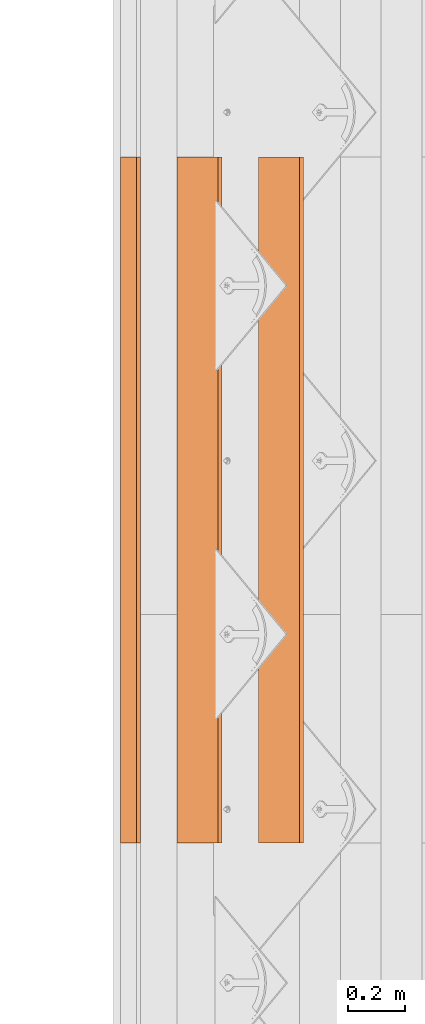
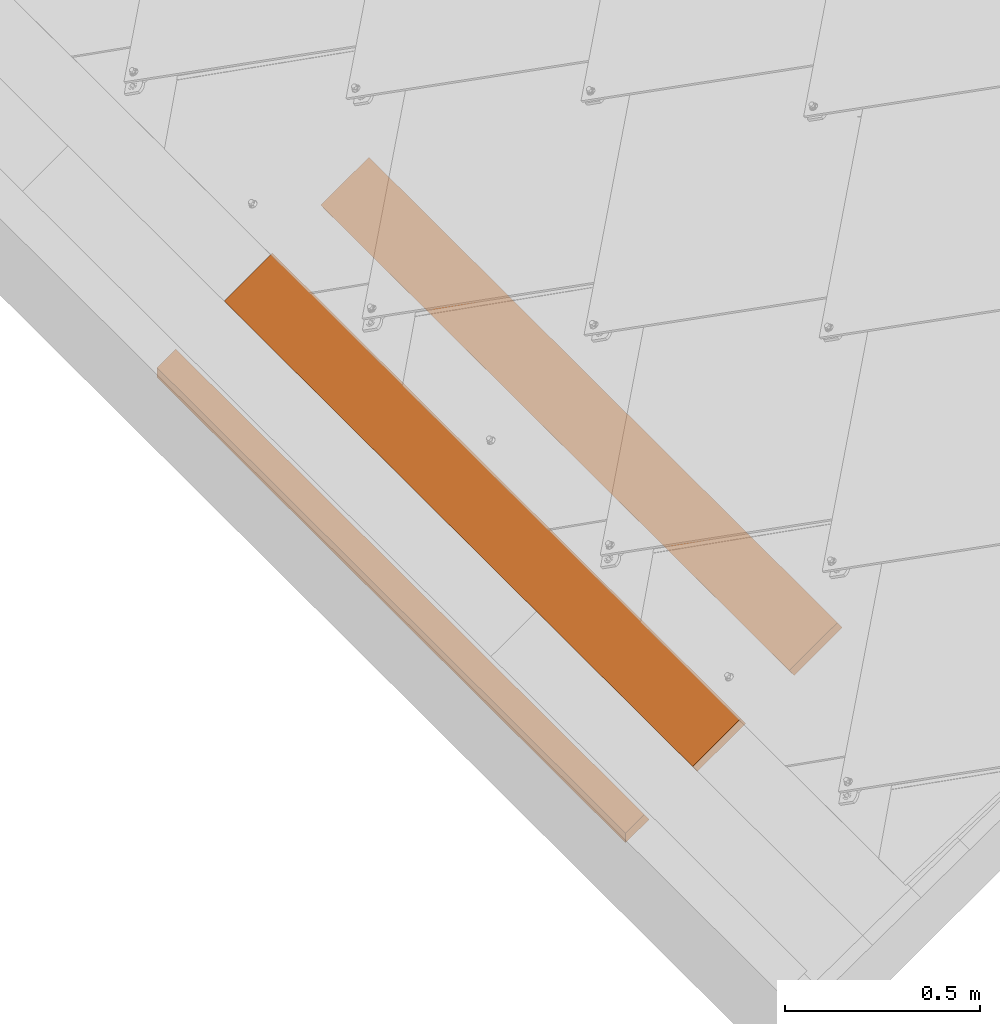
# One storey, part 44 of 133: 3 proxies, 1 element without a shape of its own.
"""IFC2X3 building model written with IfcOpenShell, lengths in millimetres."""

from ifc_helpers import new_model, entity, si_unit, converted_unit, derived_unit, direction, frame, frame_2d, origin, place, context, subcontext, project, spatial, polyline, rectangle, outline, extrude, source, transform, mapped, material, type_object, type_shapes, element, aggregate, save


model = new_model("IFC2X3")

# Units and contexts
model_context = context("Model", 3, precision=0.01, world=origin(), true_north=direction((6.12303176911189e-17, 1.0)))
body_context = subcontext(model_context, "Body", "Model", "MODEL_VIEW")
ifc_project = project(units=[si_unit("LENGTHUNIT", "METRE", prefix="MILLI"), si_unit("AREAUNIT", "SQUARE_METRE"), si_unit("VOLUMEUNIT", "CUBIC_METRE"), converted_unit("PLANEANGLEUNIT", "DEGREE", entity("IfcRatioMeasure", 0.0174532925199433), si_unit("PLANEANGLEUNIT", "RADIAN"), dimensions=[0, 0, 0, 0, 0, 0, 0]), si_unit("MASSUNIT", "GRAM", prefix="KILO"), derived_unit("MASSDENSITYUNIT", [(si_unit("MASSUNIT", "GRAM", prefix="KILO"), 1), (si_unit("LENGTHUNIT", "METRE"), -3)]), si_unit("TIMEUNIT", "SECOND"), si_unit("FREQUENCYUNIT", "HERTZ"), si_unit("THERMODYNAMICTEMPERATUREUNIT", "DEGREE_CELSIUS"), derived_unit("THERMALTRANSMITTANCEUNIT", [(si_unit("MASSUNIT", "GRAM", prefix="KILO"), 1), (si_unit("THERMODYNAMICTEMPERATUREUNIT", "KELVIN"), -1), (si_unit("TIMEUNIT", "SECOND"), -3)]), derived_unit("VOLUMETRICFLOWRATEUNIT", [(si_unit("LENGTHUNIT", "METRE"), 3), (si_unit("TIMEUNIT", "SECOND"), -1)]), si_unit("ELECTRICCURRENTUNIT", "AMPERE"), si_unit("ELECTRICVOLTAGEUNIT", "VOLT"), si_unit("POWERUNIT", "WATT"), si_unit("FORCEUNIT", "NEWTON", prefix="KILO"), si_unit("ILLUMINANCEUNIT", "LUX"), si_unit("LUMINOUSFLUXUNIT", "LUMEN"), si_unit("LUMINOUSINTENSITYUNIT", "CANDELA"), derived_unit("USERDEFINED", [(si_unit("MASSUNIT", "GRAM", prefix="KILO"), -1), (si_unit("LENGTHUNIT", "METRE"), -2), (si_unit("TIMEUNIT", "SECOND"), 3), (si_unit("LUMINOUSFLUXUNIT", "LUMEN"), 1)]), derived_unit("LINEARVELOCITYUNIT", [(si_unit("LENGTHUNIT", "METRE"), 1), (si_unit("TIMEUNIT", "SECOND"), -1)]), si_unit("PRESSUREUNIT", "PASCAL"), derived_unit("USERDEFINED", [(si_unit("LENGTHUNIT", "METRE"), -2), (si_unit("MASSUNIT", "GRAM", prefix="KILO"), 1), (si_unit("TIMEUNIT", "SECOND"), -2)])], contexts=[model_context])

# Site, building, storey
site_placement = place(None, origin())
site = spatial("IfcSite", under=ifc_project, at=site_placement, Name="Default", CompositionType="ELEMENT")
building_placement = place(site_placement, origin())
building = spatial("IfcBuilding", under=site, at=building_placement, CompositionType="ELEMENT")
storey_placement = place(building_placement, origin())
storey = spatial("IfcBuildingStorey", under=building, at=storey_placement, Name="Level 1", CompositionType="ELEMENT", Elevation=0.0)

# Assembly, proxies
assembly_placement = place(storey_placement, origin())
assembly = element("IfcElementAssembly", 1, at=assembly_placement, inside=storey, Name="Structural Framing Assembly:Roof Construction Assembly", ObjectType="Structural Framing Assembly:Roof Construction Assembly", AssemblyPlace="NOTDEFINED", PredefinedType="USERDEFINED")
ifc_material = material(Name="Wood - Generic - Wood For Showcase")
building_element_proxy_type_1 = type_object("IfcBuildingElementProxyType", Name="Structural Framing 15", PredefinedType="NOTDEFINED", material=ifc_material)
shared_shape_1 = source(origin(), body_context, "Body", "SweptSolid", [
    extrude(rectangle(XDim=24.9999999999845, YDim=174.344679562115, at=frame_2d((-1.77635683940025e-13, -4.54747350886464e-13), x_axis=(0.0, 1.0))), frame((1128.20180147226, 1595.55080214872, 2760.23940055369), z_axis=(0.0, 1.0, 0.0), x_axis=(-0.819152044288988, 0.0, -0.573576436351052)), (0.0, 0.0, 1.0), 2400.0),
])
type_shapes(building_element_proxy_type_1, [shared_shape_1])
proxy_1_placement = place(assembly_placement, frame((-3284.74041550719, -3340.0, -2300.0)))
proxy_1 = element("IfcBuildingElementProxy", 2, at=proxy_1_placement, type_object=building_element_proxy_type_1, material=ifc_material, Name="Structural Framing 131:Structural Framing 15", ObjectType="Structural Framing 131:Structural Framing 15", context=body_context, shape_type="MappedRepresentation", body=[
    mapped(shared_shape_1, transform((0.0, 0.0, 0.0), scale=1.0)),
])
building_element_proxy_type_2 = type_object("IfcBuildingElementProxyType", Name="Structural Framing 15", PredefinedType="NOTDEFINED", material=ifc_material)
shared_shape_2 = source(origin(), body_context, "Body", "SweptSolid", [
    extrude(rectangle(XDim=24.9999999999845, YDim=174.344679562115, at=frame_2d((-1.77635683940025e-13, -4.54747350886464e-13), x_axis=(0.0, 1.0))), frame((1128.20180147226, 1595.55080214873, 2760.23940055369), z_axis=(0.0, 1.0, 0.0), x_axis=(-0.819152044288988, 0.0, -0.573576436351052)), (0.0, 0.0, 1.0), 2400.0),
])
type_shapes(building_element_proxy_type_2, [shared_shape_2])
proxy_2_placement = place(assembly_placement, frame((-3570.37001685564, -3340.0, -2500.0)))
proxy_2 = element("IfcBuildingElementProxy", 3, at=proxy_2_placement, type_object=building_element_proxy_type_2, material=ifc_material, Name="Structural Framing 141:Structural Framing 15", ObjectType="Structural Framing 141:Structural Framing 15", context=body_context, shape_type="MappedRepresentation", body=[
    mapped(shared_shape_2, transform((0.0, 0.0, 0.0), scale=1.0)),
])
building_element_proxy_type_3 = type_object("IfcBuildingElementProxyType", Name="Structural Framing 15", PredefinedType="NOTDEFINED", material=ifc_material)
shared_shape_3 = source(origin(), body_context, "Body", "SweptSolid", [
    extrude(outline(polyline([(-38.2231230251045, -12.4999999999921), (46.9757172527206, -12.4999999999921), (29.4705287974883, 12.4999999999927), (-38.2231230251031, 12.4999999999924), (-38.2231230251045, -12.4999999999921)])), frame((-2687.70096575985, -6581.94919785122, 88.315517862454), z_axis=(0.0, 1.0, 0.0), x_axis=(-0.81915204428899, 0.0, -0.573576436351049)), (0.0, 0.0, 1.0), 2400.0),
])
type_shapes(building_element_proxy_type_3, [shared_shape_3])
proxy_3_placement = place(assembly_placement, frame((0.0, 4837.49999999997, 0.0)))
proxy_3 = element("IfcBuildingElementProxy", 4, at=proxy_3_placement, type_object=building_element_proxy_type_3, material=ifc_material, Name="Structural Framing 152:Structural Framing 15", ObjectType="Structural Framing 152:Structural Framing 15", context=body_context, shape_type="MappedRepresentation", body=[
    mapped(shared_shape_3, transform((0.0, 0.0, 0.0), scale=1.0)),
])
aggregate(assembly, [proxy_1, proxy_2, proxy_3])

save(model, "model.ifc")
